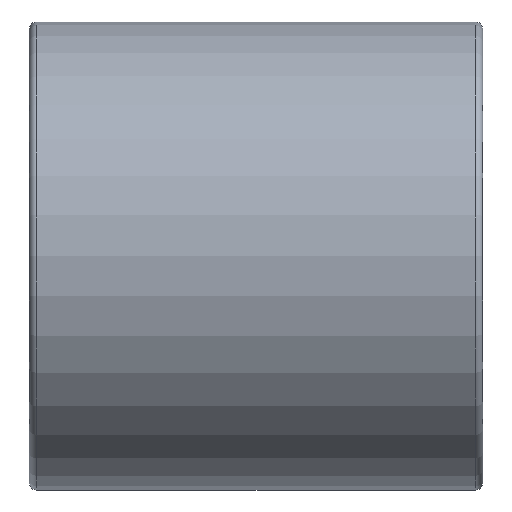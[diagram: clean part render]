
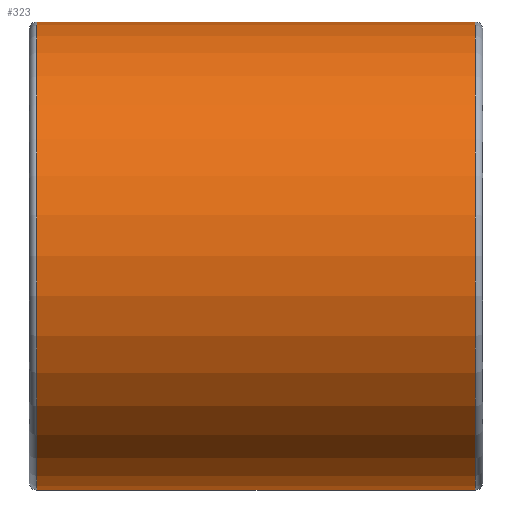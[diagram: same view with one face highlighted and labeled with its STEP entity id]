
A CAD part, top view. The second image highlights one B-rep face of the part: STEP entity #323.
In plain terms, the highlighted cylindrical face has radius 16 mm (diameter 32 mm), a partial arc.
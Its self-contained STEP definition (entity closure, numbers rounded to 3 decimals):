
#203=CARTESIAN_POINT('Vertex',(30.5,-16.,0.)) ;
#210=CARTESIAN_POINT('Vertex',(30.5,16.,0.)) ;
#230=CARTESIAN_POINT('Axis2P3D Location',(30.5,0.,0.)) ;
#251=CARTESIAN_POINT('Vertex',(0.5,16.,0.)) ;
#258=CARTESIAN_POINT('Vertex',(0.5,-16.,0.)) ;
#261=CARTESIAN_POINT('Axis2P3D Location',(0.5,0.,0.)) ;
#295=CARTESIAN_POINT('Line Origine',(15.5,16.,0.)) ;
#300=CARTESIAN_POINT('Line Origine',(15.5,-16.,0.)) ;
#312=CARTESIAN_POINT('Axis2P3D Location',(15.5,0.,0.)) ;
#231=DIRECTION('Axis2P3D Direction',(1.,-0.,0.)) ;
#262=DIRECTION('Axis2P3D Direction',(1.,-0.,0.)) ;
#296=DIRECTION('Vector Direction',(1.,0.,0.)) ;
#301=DIRECTION('Vector Direction',(1.,0.,0.)) ;
#313=DIRECTION('Axis2P3D Direction',(1.,0.,0.)) ;
#314=DIRECTION('Axis2P3D XDirection',(0.,1.,0.)) ;
#232=AXIS2_PLACEMENT_3D('Circle Axis2P3D',#230,#231,$) ;
#263=AXIS2_PLACEMENT_3D('Circle Axis2P3D',#261,#262,$) ;
#315=AXIS2_PLACEMENT_3D('Cylinder Axis2P3D',#312,#313,#314) ;
#318=ORIENTED_EDGE('',*,*,#304,.T.) ;
#319=ORIENTED_EDGE('',*,*,#234,.F.) ;
#320=ORIENTED_EDGE('',*,*,#299,.F.) ;
#321=ORIENTED_EDGE('',*,*,#265,.T.) ;
#297=VECTOR('Line Direction',#296,1.) ;
#302=VECTOR('Line Direction',#301,1.) ;
#323=ADVANCED_FACE('STM20',(#322),#316,.T.) ;
#233=CIRCLE('generated circle',#232,16.) ;
#264=CIRCLE('generated circle',#263,16.) ;
#316=CYLINDRICAL_SURFACE('generated cylinder',#315,16.) ;
#234=EDGE_CURVE('',#211,#204,#233,.T.) ;
#265=EDGE_CURVE('',#252,#259,#264,.T.) ;
#299=EDGE_CURVE('',#252,#211,#298,.T.) ;
#304=EDGE_CURVE('',#259,#204,#303,.T.) ;
#317=EDGE_LOOP('',(#318,#319,#320,#321)) ;
#322=FACE_OUTER_BOUND('',#317,.T.) ;
#298=LINE('Line',#295,#297) ;
#303=LINE('Line',#300,#302) ;
#204=VERTEX_POINT('',#203) ;
#211=VERTEX_POINT('',#210) ;
#252=VERTEX_POINT('',#251) ;
#259=VERTEX_POINT('',#258) ;
